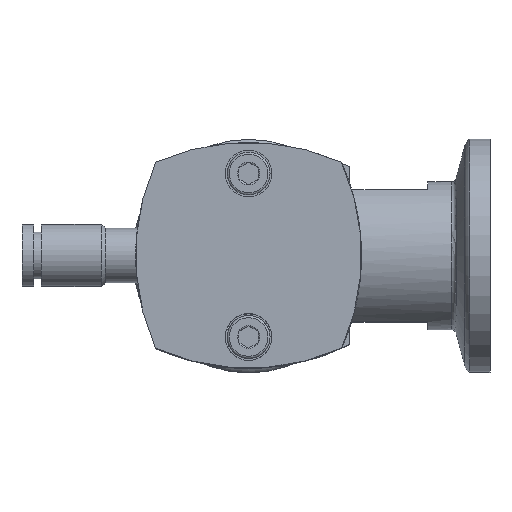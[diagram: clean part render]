
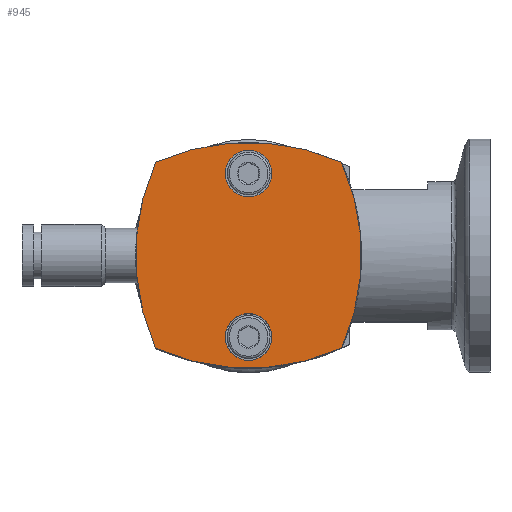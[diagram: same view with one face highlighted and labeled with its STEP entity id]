
A CAD part, top view. The second image highlights one B-rep face of the part: STEP entity #945.
In plain terms, the highlighted planar face has unit normal (0, 0, 1).
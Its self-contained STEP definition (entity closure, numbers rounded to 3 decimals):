
#621=FACE_BOUND('',#1484,.T.);
#622=FACE_BOUND('',#1485,.T.);
#623=FACE_BOUND('',#1486,.T.);
#945=ADVANCED_FACE('',(#621,#622,#623),#1112,.F.);
#1112=PLANE('',#3953);
#1484=EDGE_LOOP('',(#2488,#2489,#2490,#2491));
#1485=EDGE_LOOP('',(#2492));
#1486=EDGE_LOOP('',(#2493));
#2488=ORIENTED_EDGE('',*,*,#3335,.F.);
#2489=ORIENTED_EDGE('',*,*,#3336,.F.);
#2490=ORIENTED_EDGE('',*,*,#3337,.F.);
#2491=ORIENTED_EDGE('',*,*,#3338,.F.);
#2492=ORIENTED_EDGE('',*,*,#3331,.T.);
#2493=ORIENTED_EDGE('',*,*,#3334,.T.);
#2957=VERTEX_POINT('',#6275);
#2960=VERTEX_POINT('',#6283);
#2961=VERTEX_POINT('',#6286);
#2962=VERTEX_POINT('',#6287);
#2963=VERTEX_POINT('',#6289);
#2964=VERTEX_POINT('',#6291);
#3331=EDGE_CURVE('',#2957,#2957,#3580,.T.);
#3334=EDGE_CURVE('',#2960,#2960,#3583,.T.);
#3335=EDGE_CURVE('',#2961,#2962,#3584,.T.);
#3336=EDGE_CURVE('',#2963,#2961,#3585,.T.);
#3337=EDGE_CURVE('',#2964,#2963,#3586,.T.);
#3338=EDGE_CURVE('',#2962,#2964,#3587,.T.);
#3580=CIRCLE('',#3942,3.);
#3583=CIRCLE('',#3947,3.);
#3584=CIRCLE('',#3949,29.);
#3585=CIRCLE('',#3950,29.);
#3586=CIRCLE('',#3951,29.);
#3587=CIRCLE('',#3952,29.);
#3942=AXIS2_PLACEMENT_3D('',#6274,#4806,#4807);
#3947=AXIS2_PLACEMENT_3D('',#6282,#4816,#4817);
#3949=AXIS2_PLACEMENT_3D('',#6285,#4820,#4821);
#3950=AXIS2_PLACEMENT_3D('',#6288,#4822,#4823);
#3951=AXIS2_PLACEMENT_3D('',#6290,#4824,#4825);
#3952=AXIS2_PLACEMENT_3D('',#6292,#4826,#4827);
#3953=AXIS2_PLACEMENT_3D('',#6293,#4828,#4829);
#4806=DIRECTION('',(0.,0.,-1.));
#4807=DIRECTION('',(1.,0.,0.));
#4816=DIRECTION('',(0.,0.,-1.));
#4817=DIRECTION('',(1.,0.,0.));
#4820=DIRECTION('',(0.,0.,-1.));
#4821=DIRECTION('',(0.911,0.411,0.));
#4822=DIRECTION('',(0.,0.,-1.));
#4823=DIRECTION('',(-0.411,0.911,0.));
#4824=DIRECTION('',(0.,0.,-1.));
#4825=DIRECTION('',(-0.911,-0.411,0.));
#4826=DIRECTION('',(0.,0.,-1.));
#4827=DIRECTION('',(0.411,-0.911,0.));
#4828=DIRECTION('',(0.,0.,-1.));
#4829=DIRECTION('',(1.,0.,0.));
#6274=CARTESIAN_POINT('',(99.268,18.827,23.883));
#6275=CARTESIAN_POINT('',(102.268,18.827,23.883));
#6282=CARTESIAN_POINT('',(99.268,39.827,23.883));
#6283=CARTESIAN_POINT('',(102.268,39.827,23.883));
#6285=CARTESIAN_POINT('',(84.768,29.327,23.883));
#6286=CARTESIAN_POINT('',(111.2,41.259,23.883));
#6287=CARTESIAN_POINT('',(111.2,17.395,23.883));
#6288=CARTESIAN_POINT('',(99.268,14.827,23.883));
#6289=CARTESIAN_POINT('',(87.336,41.259,23.883));
#6290=CARTESIAN_POINT('',(113.768,29.327,23.883));
#6291=CARTESIAN_POINT('',(87.336,17.395,23.883));
#6292=CARTESIAN_POINT('',(99.268,43.827,23.883));
#6293=CARTESIAN_POINT('',(99.268,29.327,23.883));
